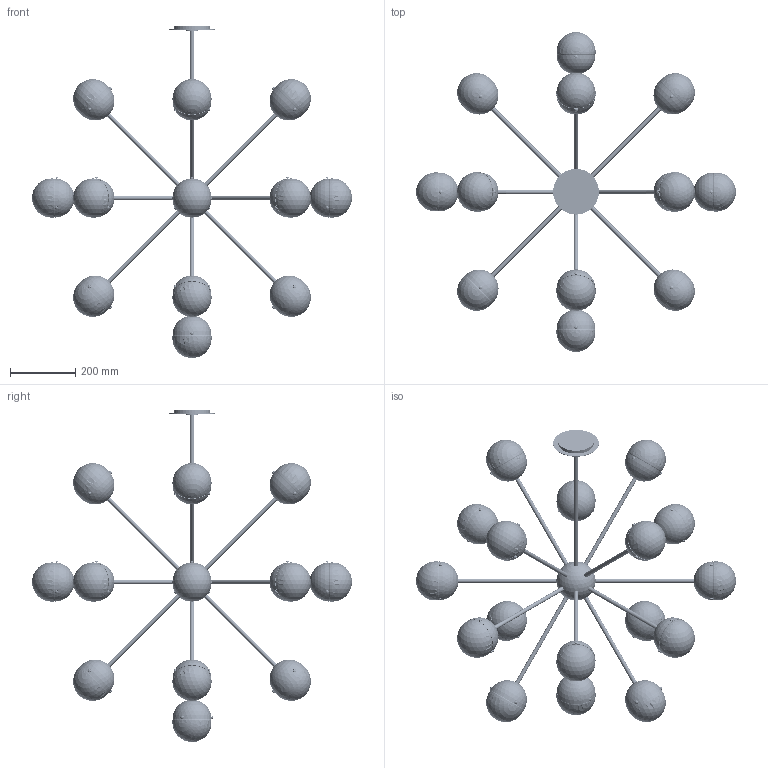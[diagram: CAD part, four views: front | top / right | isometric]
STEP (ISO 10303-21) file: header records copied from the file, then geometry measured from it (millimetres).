
FILE_DESCRIPTION(/* description */ (''),/* implementation_level */ '2;1');
FILE_NAME(/* name */ 'T:\B222 Molecule Chandelier Spunik LG Pendant\Pliki bryłowe handlowe\B222 Molecule Spark Round 17 3D files_na stronę\B222 Molecule Spark Round 17.stp',/* time_stamp */ '2022-02-02T15:27:22+01:00',/* author */ ('Mariusz Awariusz'),/* organization */ (''),/* preprocessor_version */ 'ST-DEVELOPER v18.1',/* originating_system */ 'Autodesk Inventor 2022',/* authorisation */ '');
FILE_SCHEMA (('AUTOMOTIVE_DESIGN { 1 0 10303 214 3 1 1 }'));
Products named in the file (1): B222 Molecule Chandelier Sputnik LG Pendant CE V1_na potrzeby plikó
w 3D_2_jako część_korpusy bryło
Bounding box: 977.7 x 977.7 x 1014.66 mm (x, y, z)
Volume: 2155418 mm3; surface area: 2243172.6 mm2
Topology: 3169 solids, 3169 shells, 25702 faces, 58094 edges, 38621 vertices
Faces by surface type: plane 21600, cylinder 3313, bspline 408, torus 170, sphere 123, cone 88
Full cylindrical faces by diameter (mm): 3.242 x51, 4 x51, 6 x51, 10 x28, 13 x18, 34.5 x1, 36 x1, 109 x17, 110 x1, 112 x17, 140 x1
Entity records: 724731 total; most frequent: CARTESIAN_POINT 143935, ORIENTED_EDGE 116052, DIRECTION 115081, EDGE_CURVE 58026, LINE 49317, VECTOR 49317, VERTEX_POINT 38621, AXIS2_PLACEMENT_3D 32882
